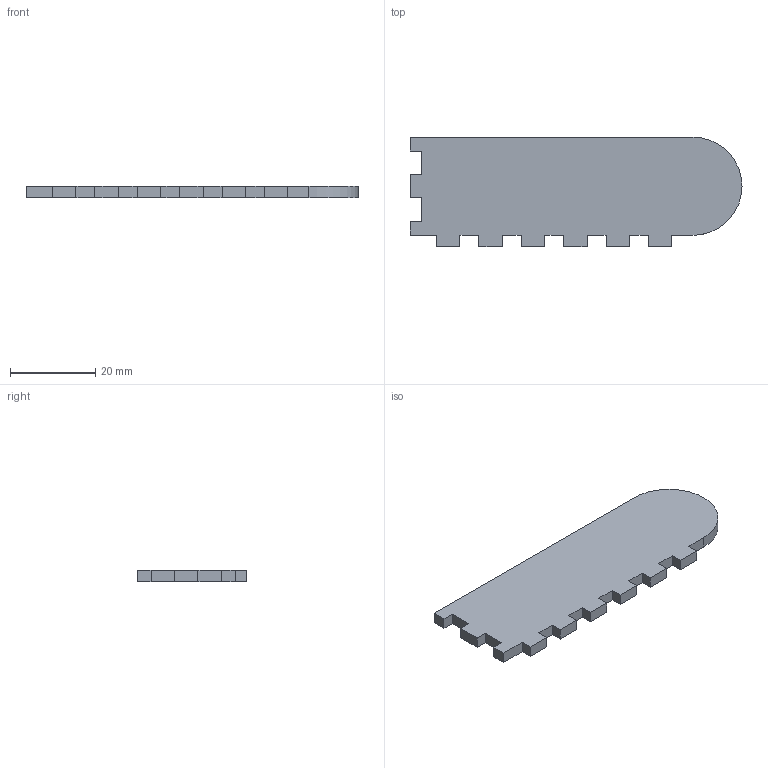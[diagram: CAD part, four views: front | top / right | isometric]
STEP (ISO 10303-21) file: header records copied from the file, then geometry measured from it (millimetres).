
FILE_DESCRIPTION(/* description */ ('STEP AP242 Edition 2','CAx-IF Rec.Pracs.---Representation and Presentation of Product Manufacturing Information (PMI)---4.0---2014-10-13','CAx-IF Rec.Pracs.---3D Tessellated Geometry---0.4---2014-09-14','2;1','CAx-IF Rec.Pracs.---User Defined Attributes---1.5---2016-08-15'),/* implementation_level */ '2;1');
FILE_NAME(/* name */ 'FlexibleBoxPartStudio - Side1',/* time_stamp */ '2026-02-11T15:49:31Z',/* author */ (''),/* organization */ (''),/* preprocessor_version */ 'ST-DEVELOPER v20',/* originating_system */ 'ONSHAPE BY PTC INC, 1.210',/* authorisation */ ' ');
FILE_SCHEMA (('AP242_MANAGED_MODEL_BASED_3D_ENGINEERING_MIM_LF { 1 0 10303 442 3 1 4 }'));
Length unit declared in the file: metre
Products named in the file (1): Side1
Bounding box: 77.83 x 25.7 x 2.7 mm (x, y, z)
Volume: 4840.2 mm3; surface area: 4219.8 mm2
Topology: 1 solids, 1 shells, 38 faces, 108 edges, 72 vertices
Faces by surface type: plane 37, cylinder 1
Entity records: 1236 total; most frequent: CARTESIAN_POINT 219, ORIENTED_EDGE 216, DIRECTION 188, EDGE_CURVE 108, LINE 106, VECTOR 106, VERTEX_POINT 72, AXIS2_PLACEMENT_3D 41
